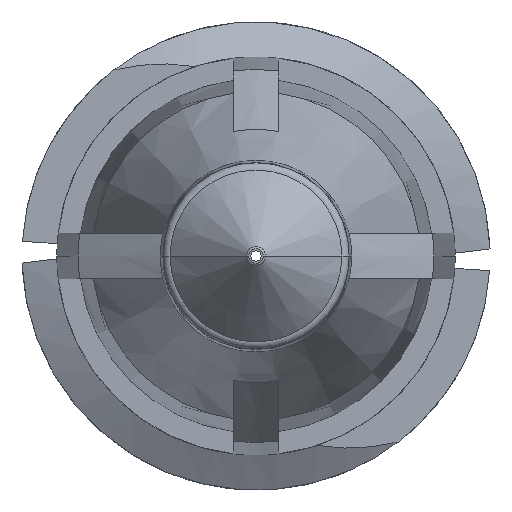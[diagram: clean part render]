
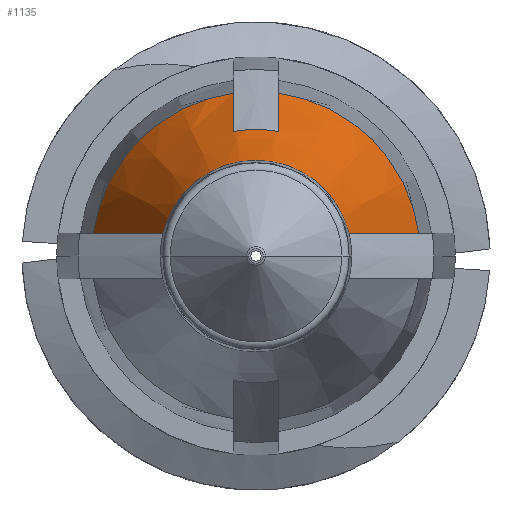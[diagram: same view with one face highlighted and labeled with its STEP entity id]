
A CAD part, front view. The second image highlights one B-rep face of the part: STEP entity #1135.
In plain terms, the highlighted conical face has half-angle 20 degrees and reference radius 2.745 mm.
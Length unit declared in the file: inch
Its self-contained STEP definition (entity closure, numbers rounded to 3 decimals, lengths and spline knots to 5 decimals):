
#27 = EDGE_CURVE ( 'NONE', #211, #2125, #2796, .T. ) ;
#114 = CARTESIAN_POINT ( 'NONE',  ( -0.015, -0.45131, 0.09036 ) ) ;
#120 = CARTESIAN_POINT ( 'NONE',  ( 0.015, -0.406, 0.10703 ) ) ;
#163 = CARTESIAN_POINT ( 'NONE',  ( -0.015, -0.406, 0.10703 ) ) ;
#202 = CARTESIAN_POINT ( 'NONE',  ( -0.10703, -0.406, 0.015 ) ) ;
#205 = VERTEX_POINT ( 'NONE', #1648 ) ;
#211 = VERTEX_POINT ( 'NONE', #1407 ) ;
#229 = CARTESIAN_POINT ( 'NONE',  ( -0.07664, -0.48863, 0.015 ) ) ;
#500 = CARTESIAN_POINT ( 'NONE',  ( 0.015, -0.45131, 0.09036 ) ) ;
#503 = CARTESIAN_POINT ( 'NONE',  ( -0.10703, -0.406, 0.015 ) ) ;
#530 = B_SPLINE_CURVE_WITH_KNOTS ( 'NONE', 3,
 ( #3101, #229, #3364, #503 ),
 .UNSPECIFIED., .F., .F.,
 ( 4, 4 ),
 ( 0.00282, 0.00617 ),
 .UNSPECIFIED. ) ;
#549 = ORIENTED_EDGE ( 'NONE', *, *, #27, .F. ) ;
#554 = DIRECTION ( 'NONE',  ( 0., 1., 0. ) ) ;
#664 = CARTESIAN_POINT ( 'NONE',  ( 0.015, -0.47395, 0.08198 ) ) ;
#737 = CARTESIAN_POINT ( 'NONE',  ( 0.06119, -0.52985, 0.015 ) ) ;
#769 = EDGE_CURVE ( 'NONE', #2598, #211, #3044, .T. ) ;
#773 = DIRECTION ( 'NONE',  ( 1., 0., 0. ) ) ;
#779 = AXIS2_PLACEMENT_3D ( 'NONE', #3165, #2074, #773 ) ;
#822 = VERTEX_POINT ( 'NONE', #2654 ) ;
#884 = FACE_OUTER_BOUND ( 'NONE', #2547, .T. ) ;
#971 = ORIENTED_EDGE ( 'NONE', *, *, #3349, .T. ) ;
#982 = AXIS2_PLACEMENT_3D ( 'NONE', #2830, #1554, #2591 ) ;
#1002 = CIRCLE ( 'NONE', #3089, 0.10808 ) ;
#1047 = B_SPLINE_CURVE_WITH_KNOTS ( 'NONE', 3,
 ( #737, #1545, #2576, #2857 ),
 .UNSPECIFIED., .F., .F.,
 ( 4, 4 ),
 ( 0.00282, 0.00617 ),
 .UNSPECIFIED. ) ;
#1135 = ADVANCED_FACE ( 'NONE', ( #884 ), #2132, .T. ) ;
#1145 = EDGE_CURVE ( 'NONE', #3297, #1887, #1002, .T. ) ;
#1232 = CIRCLE ( 'NONE', #3311, 0.10808 ) ;
#1275 = CARTESIAN_POINT ( 'NONE',  ( 0.015, -0.42866, 0.0987 ) ) ;
#1311 = ORIENTED_EDGE ( 'NONE', *, *, #3157, .T. ) ;
#1385 = CARTESIAN_POINT ( 'NONE',  ( -0.015, -0.47395, 0.08198 ) ) ;
#1407 = CARTESIAN_POINT ( 'NONE',  ( -0.015, -0.47395, 0.08198 ) ) ;
#1471 = EDGE_CURVE ( 'NONE', #2143, #2598, #1232, .T. ) ;
#1482 = CARTESIAN_POINT ( 'NONE',  ( 0.10703, -0.406, 0.015 ) ) ;
#1517 = DIRECTION ( 'NONE',  ( -1., 0., 0. ) ) ;
#1545 = CARTESIAN_POINT ( 'NONE',  ( 0.07664, -0.48863, 0.015 ) ) ;
#1554 = DIRECTION ( 'NONE',  ( 0., 1., 0. ) ) ;
#1555 = CARTESIAN_POINT ( 'NONE',  ( 0.015, -0.47395, 0.08198 ) ) ;
#1583 = CIRCLE ( 'NONE', #1783, 0.063 ) ;
#1585 = DIRECTION ( 'NONE',  ( -1., 0., 0. ) ) ;
#1648 = CARTESIAN_POINT ( 'NONE',  ( -0.06119, -0.52985, 0.015 ) ) ;
#1737 = ORIENTED_EDGE ( 'NONE', *, *, #2254, .F. ) ;
#1783 = AXIS2_PLACEMENT_3D ( 'NONE', #3168, #554, #1585 ) ;
#1887 = VERTEX_POINT ( 'NONE', #1482 ) ;
#1945 = CARTESIAN_POINT ( 'NONE',  ( -0.015, -0.42866, 0.0987 ) ) ;
#1977 = DIRECTION ( 'NONE',  ( 0., 1., 0. ) ) ;
#1997 = EDGE_CURVE ( 'NONE', #2125, #3297, #2855, .T. ) ;
#2074 = DIRECTION ( 'NONE',  ( 0., 1., 0. ) ) ;
#2125 = VERTEX_POINT ( 'NONE', #664 ) ;
#2132 = CONICAL_SURFACE ( 'NONE', #982, 0.10808, 0.349 ) ;
#2143 = VERTEX_POINT ( 'NONE', #202 ) ;
#2254 = EDGE_CURVE ( 'NONE', #205, #2143, #530, .T. ) ;
#2337 = DIRECTION ( 'NONE',  ( 0., 1., 0. ) ) ;
#2435 = CARTESIAN_POINT ( 'NONE',  ( 0., -0.406, 0. ) ) ;
#2509 = ORIENTED_EDGE ( 'NONE', *, *, #1997, .F. ) ;
#2528 = ORIENTED_EDGE ( 'NONE', *, *, #1145, .F. ) ;
#2547 = EDGE_LOOP ( 'NONE', ( #1737, #1311, #971, #2528, #2509, #549, #2910, #3064 ) ) ;
#2576 = CARTESIAN_POINT ( 'NONE',  ( 0.09185, -0.44732, 0.015 ) ) ;
#2591 = DIRECTION ( 'NONE',  ( -1., 0., 0. ) ) ;
#2598 = VERTEX_POINT ( 'NONE', #3012 ) ;
#2654 = CARTESIAN_POINT ( 'NONE',  ( 0.06119, -0.52985, 0.015 ) ) ;
#2796 = CIRCLE ( 'NONE', #779, 0.08335 ) ;
#2830 = CARTESIAN_POINT ( 'NONE',  ( 0., -0.406, 0. ) ) ;
#2855 = B_SPLINE_CURVE_WITH_KNOTS ( 'NONE', 3,
 ( #1555, #500, #1275, #3113 ),
 .UNSPECIFIED., .F., .F.,
 ( 4, 4 ),
 ( 0.00247, 0.00431 ),
 .UNSPECIFIED. ) ;
#2857 = CARTESIAN_POINT ( 'NONE',  ( 0.10703, -0.406, 0.015 ) ) ;
#2910 = ORIENTED_EDGE ( 'NONE', *, *, #769, .F. ) ;
#3012 = CARTESIAN_POINT ( 'NONE',  ( -0.015, -0.406, 0.10703 ) ) ;
#3044 = B_SPLINE_CURVE_WITH_KNOTS ( 'NONE', 3,
 ( #163, #1945, #114, #1385 ),
 .UNSPECIFIED., .F., .F.,
 ( 4, 4 ),
 ( 0.00343, 0.00527 ),
 .UNSPECIFIED. ) ;
#3064 = ORIENTED_EDGE ( 'NONE', *, *, #1471, .F. ) ;
#3089 = AXIS2_PLACEMENT_3D ( 'NONE', #3367, #2337, #1517 ) ;
#3101 = CARTESIAN_POINT ( 'NONE',  ( -0.06119, -0.52985, 0.015 ) ) ;
#3113 = CARTESIAN_POINT ( 'NONE',  ( 0.015, -0.406, 0.10703 ) ) ;
#3157 = EDGE_CURVE ( 'NONE', #205, #822, #1583, .T. ) ;
#3165 = CARTESIAN_POINT ( 'NONE',  ( 0., -0.47395, 0. ) ) ;
#3168 = CARTESIAN_POINT ( 'NONE',  ( 0., -0.52985, 0. ) ) ;
#3205 = DIRECTION ( 'NONE',  ( -1., 0., 0. ) ) ;
#3297 = VERTEX_POINT ( 'NONE', #120 ) ;
#3311 = AXIS2_PLACEMENT_3D ( 'NONE', #2435, #1977, #3205 ) ;
#3349 = EDGE_CURVE ( 'NONE', #822, #1887, #1047, .T. ) ;
#3364 = CARTESIAN_POINT ( 'NONE',  ( -0.09185, -0.44732, 0.015 ) ) ;
#3367 = CARTESIAN_POINT ( 'NONE',  ( 0., -0.406, 0. ) ) ;
